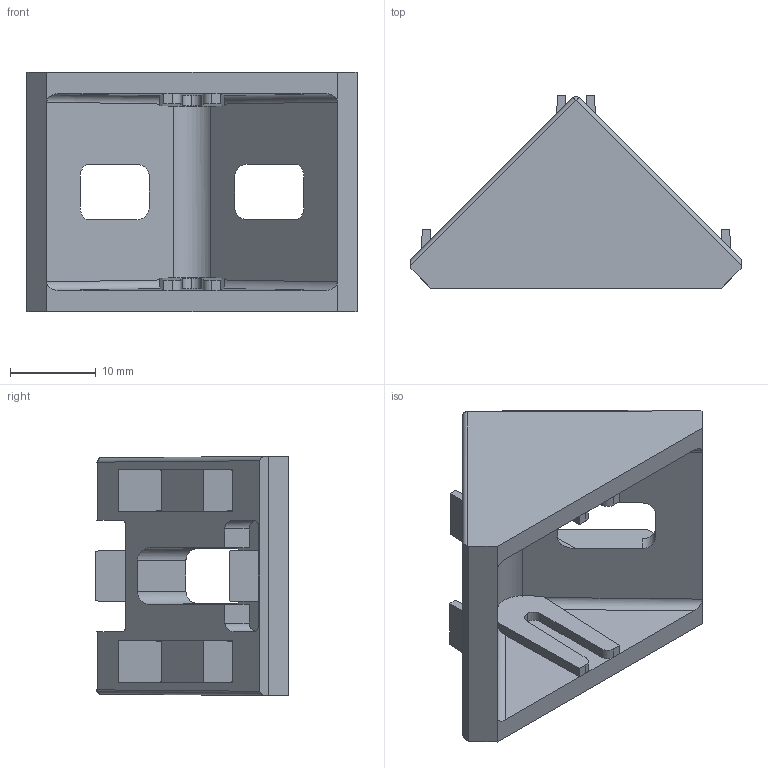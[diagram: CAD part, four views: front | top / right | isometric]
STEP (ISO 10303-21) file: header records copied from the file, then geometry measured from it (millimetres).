
FILE_DESCRIPTION(('STEP AP242'),'1');
FILE_NAME('fath_093w301n06r.stp','2021-03-03T13:17:56',('TraceParts'),('TraceParts S.A.'),'Spatial InterOp 3D',' ',' ');
FILE_SCHEMA(('AP242_MANAGED_MODEL_BASED_3D_ENGINEERING_MIM_LF {1 0 10303 442 1 1 4}'));
Length unit declared in the file: millimetre
Products named in the file (1): fath_093w301n06r
Bounding box: 38.6 x 22.57 x 28 mm (x, y, z)
Volume: 5963.2 mm3; surface area: 5084.7 mm2
Topology: 1 solids, 1 shells, 146 faces, 394 edges, 256 vertices
Faces by surface type: plane 107, cylinder 37, sphere 2
Entity records: 4527 total; most frequent: CARTESIAN_POINT 993, ORIENTED_EDGE 784, DIRECTION 650, EDGE_CURVE 392, LINE 304, VECTOR 304, VERTEX_POINT 256, AXIS2_PLACEMENT_3D 173
